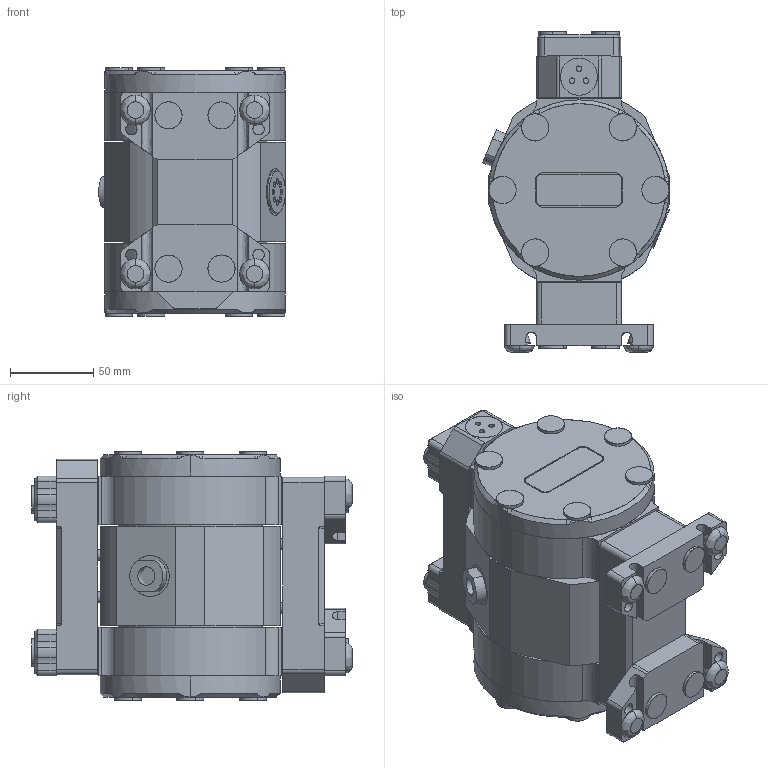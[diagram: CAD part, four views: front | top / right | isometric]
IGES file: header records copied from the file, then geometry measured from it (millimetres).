
Start section: SolidWorks IGES file using analytic representation for surfaces
Global section: file name: \\server\Users\Karen.Bodily\My Documents\p&g\PSD06.IGS; native system: SolidWorks 2012; preprocessor: SolidWorks 2012; author: karen.bodily; date: 140106.102212; units: inch
Bounding box: 111.83 x 191.9 x 148.87 mm (x, y, z)
Surface area: 274398.6 mm2 (no closed solid volume)
Topology: 0 solids, 0 shells, 730 faces, 11890 edges, 11890 vertices
Faces by surface type: bspline 382, revolution 348
